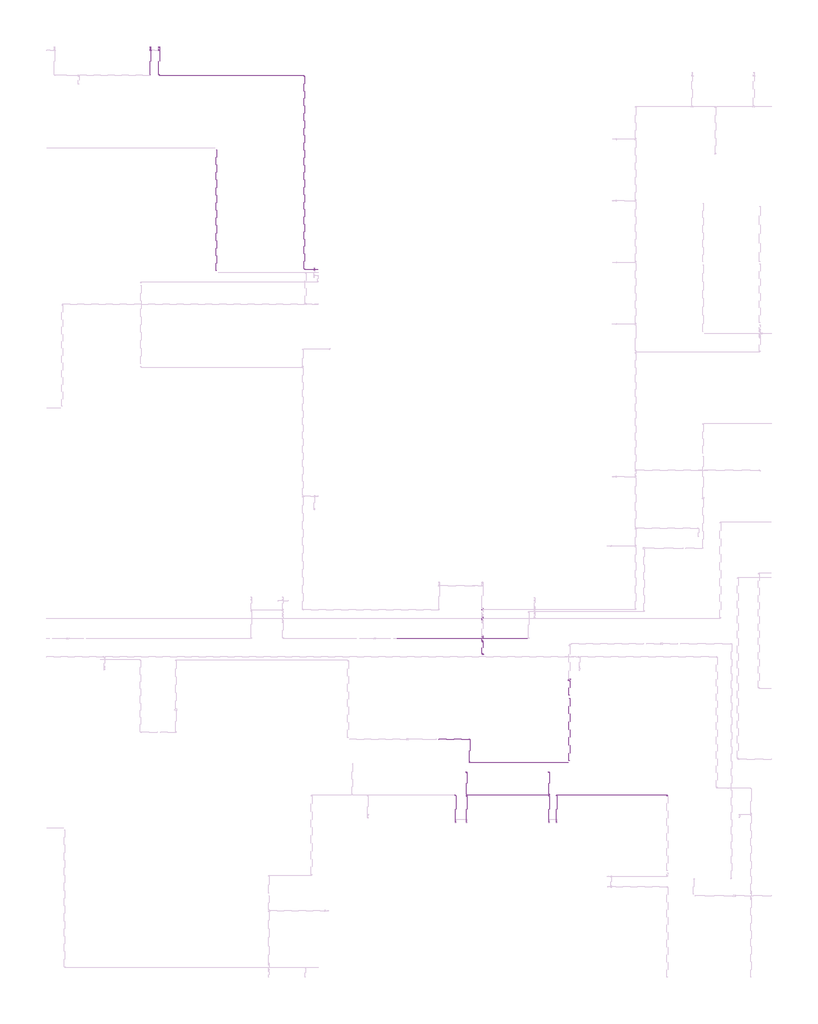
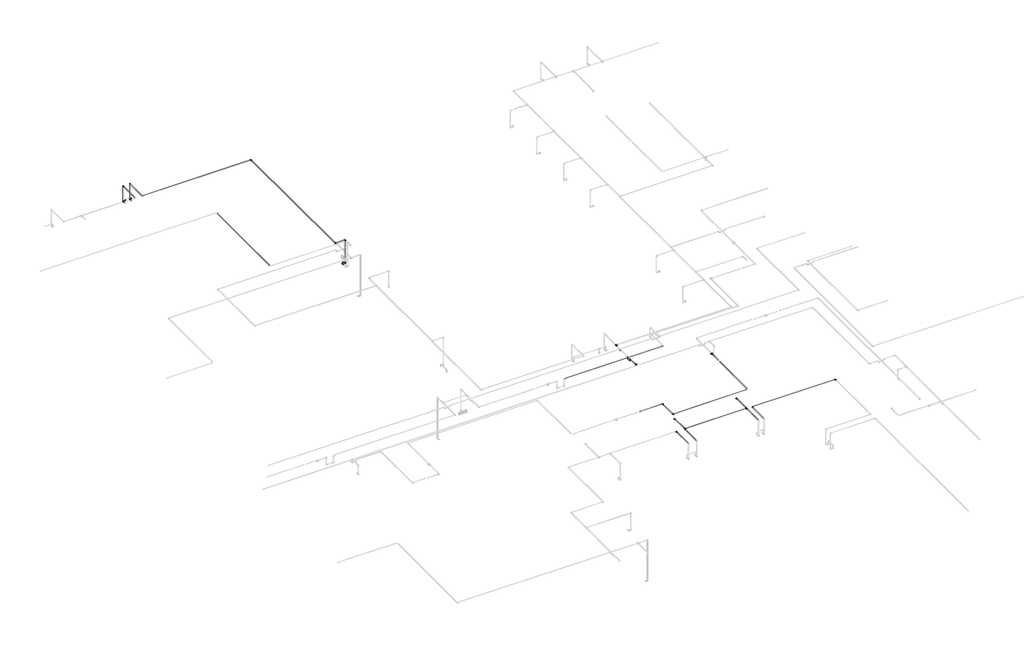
# One storey, part 30 of 40: 37 cable carrier segments, 25 cable carrier fittings, 1 alarm, 1 electric appliance.
"""IFC4 building model written with IfcOpenShell, lengths in millimetres."""

from ifc_helpers import new_model, si_unit, point, frame, frame_2d, origin, place, context, project, spatial, circle_curve, trimmed, segment, composite_curve, outline, extrude, transform, mapped, element, save
from components import alarm_a2247946, cable_carrier_fitting_69f1a801, cable_carrier_fitting_8fd13dfc, electric_appliance_5961a143

model = new_model("IFC4")

# Units and contexts
model_context = context("Model", 3, world=origin())
ifc_project = project(units=[si_unit("LENGTHUNIT", "METRE", prefix="MILLI")], contexts=[model_context])

# Site, building, storey
site = spatial("IfcSite", under=ifc_project)
building = spatial("IfcBuilding", under=site)
storey = spatial("IfcBuildingStorey", under=building, Name="1 этаж", Elevation=0.0)

# Alarm
placement = place(None, origin())
alarm_shape = alarm_a2247946(model_context)
element("IfcAlarm", 1, ObjectType="RBZ_ИзоляторШлейфа_Рубеж_ИЗ-1_прот.R3(плоскость) : ИЗ-1 прот.R3", at=placement, inside=storey, context=model_context, shape_type="MappedRepresentation", body=[
    mapped(alarm_shape, transform((3758.6759895, 3899.6370105, 3200.7186865), x_axis=(1.0, 0.0, 0.0), y_axis=(0.0, 1.0, 0.0), z_axis=(0.0, 0.0, 1.0))),
])

# Cable carrier fittings
cable_carrier_fitting_shape = cable_carrier_fitting_69f1a801(model_context)
element("IfcCableCarrierFitting", 2, ObjectType="ADSK_Поворот_Минимальный размер : Неспецифицируемый", at=placement, inside=storey, context=model_context, shape_type="MappedRepresentation", body=[
    mapped(cable_carrier_fitting_shape, transform((813.1759979, 1457.3920653, 3189.9686909), x_axis=(0.0, -0.9999999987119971, -5.075436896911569e-05), y_axis=(0.9999999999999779, 1.0689508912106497e-11, -2.1061258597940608e-07), z_axis=(2.106125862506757e-07, -5.075436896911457e-05, 0.9999999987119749))),
])
element("IfcCableCarrierFitting", 3, ObjectType="ADSK_Поворот_Минимальный размер : Неспецифицируемый", at=placement, inside=storey, context=model_context, shape_type="MappedRepresentation", body=[
    mapped(cable_carrier_fitting_shape, transform((813.1759979, 2144.6370072, 3190.0035716), x_axis=(0.0, 0.9999999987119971, 5.0754368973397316e-05), y_axis=(-0.9999999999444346, 5.350460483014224e-10, -1.0541871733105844e-05), z_axis=(-1.0541871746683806e-05, -5.075436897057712e-05, 0.9999999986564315))),
])
element("IfcCableCarrierFitting", 4, ObjectType="ADSK_Поворот_Минимальный размер : Неспецифицируемый", at=placement, inside=storey, context=model_context, shape_type="MappedRepresentation", body=[
    mapped(cable_carrier_fitting_shape, transform((-8362.3240021, 22488.6370105, 2650.0), x_axis=(0.0, 0.0, 1.0), y_axis=(-1.0, 0.0, 0.0), z_axis=(0.0, -1.0, 0.0))),
])
element("IfcCableCarrierFitting", 5, ObjectType="ADSK_Поворот_Минимальный размер : Неспецифицируемый", at=placement, inside=storey, context=model_context, shape_type="MappedRepresentation", body=[
    mapped(cable_carrier_fitting_shape, transform((-8622.3240021, 22488.6370105, 2650.0), x_axis=(0.0, 0.0, 1.0), y_axis=(1.0, 0.0, 0.0), z_axis=(0.0, 1.0, 0.0))),
])
element("IfcCableCarrierFitting", 6, ObjectType="ADSK_Поворот_Минимальный размер : Неспецифицируемый", at=placement, inside=storey, context=model_context, shape_type="MappedRepresentation", body=[
    mapped(cable_carrier_fitting_shape, transform((-8622.3240021, 22588.8368161, 2535.0911237), x_axis=(0.0, 1.0, 0.0), y_axis=(0.0, 0.0, 1.0), z_axis=(1.0, 0.0, 0.0))),
])
element("IfcCableCarrierFitting", 7, ObjectType="ADSK_Поворот_Минимальный размер : Неспецифицируемый", at=placement, inside=storey, context=model_context, shape_type="MappedRepresentation", body=[
    mapped(cable_carrier_fitting_shape, transform((-8622.3240021, 22588.8368161, 3187.0), x_axis=(0.0, 0.0, 1.0), y_axis=(0.0, -1.0, 0.0), z_axis=(1.0, 0.0, 0.0))),
])
element("IfcCableCarrierFitting", 8, ObjectType="ADSK_Поворот_Минимальный размер : Неспецифицируемый", at=placement, inside=storey, context=model_context, shape_type="MappedRepresentation", body=[
    mapped(cable_carrier_fitting_shape, transform((-8362.3240021, 22588.8368161, 2535.0527319), x_axis=(0.0, 1.0, 0.0), y_axis=(0.0, 0.0, 1.0), z_axis=(1.0, 0.0, 0.0))),
])
element("IfcCableCarrierFitting", 9, ObjectType="ADSK_Поворот_Минимальный размер : Неспецифицируемый", at=placement, inside=storey, context=model_context, shape_type="MappedRepresentation", body=[
    mapped(cable_carrier_fitting_shape, transform((-8362.3240021, 22588.8368161, 3187.0), x_axis=(0.0, 0.0, 1.0), y_axis=(0.0, -1.0, 0.0), z_axis=(1.0, 0.0, 0.0))),
])
element("IfcCableCarrierFitting", 10, ObjectType="ADSK_Поворот_Минимальный размер : Неспецифицируемый", at=placement, inside=storey, context=model_context, shape_type="MappedRepresentation", body=[
    mapped(cable_carrier_fitting_shape, transform((-3675.1241965, 16019.6370105, 2212.0911237), x_axis=(1.0, 0.0, 0.0), y_axis=(0.0, 0.0, 1.0), z_axis=(0.0, -1.0, 0.0))),
])
element("IfcCableCarrierFitting", 11, ObjectType="ADSK_Поворот_Минимальный размер : Неспецифицируемый", at=placement, inside=storey, context=model_context, shape_type="MappedRepresentation", body=[
    mapped(cable_carrier_fitting_shape, transform((-3675.1241965, 16019.6370105, 3187.0), x_axis=(0.0, 0.0, 1.0), y_axis=(-1.0, 0.0, 0.0), z_axis=(0.0, -1.0, 0.0))),
])
element("IfcCableCarrierFitting", 12, ObjectType="ADSK_Поворот_Минимальный размер : Неспецифицируемый", at=placement, inside=storey, context=model_context, shape_type="MappedRepresentation", body=[
    mapped(cable_carrier_fitting_shape, transform((-4075.1241965, 16019.6370105, 3187.0), x_axis=(0.0, -1.0, 0.0), y_axis=(1.0, 0.0, 0.0), z_axis=(0.0, 0.0, 1.0))),
])
element("IfcCableCarrierFitting", 13, ObjectType="ADSK_Поворот_Минимальный размер : Неспецифицируемый", at=placement, inside=storey, context=model_context, shape_type="MappedRepresentation", body=[
    mapped(cable_carrier_fitting_shape, transform((-4075.1241965, 21741.6370105, 3187.0), x_axis=(0.0, 1.0, 0.0), y_axis=(-1.0, 0.0, 0.0), z_axis=(0.0, 0.0, 1.0))),
])
element("IfcCableCarrierFitting", 14, ObjectType="ADSK_Поворот_Минимальный размер : Неспецифицируемый", at=placement, inside=storey, context=model_context, shape_type="MappedRepresentation", body=[
    mapped(cable_carrier_fitting_shape, transform((1187.6759979, 5198.8368161, 3120.0), x_axis=(0.0, 0.0, -1.0), y_axis=(0.0, -1.0, 0.0), z_axis=(-1.0, 0.0, 0.0))),
])
element("IfcCableCarrierFitting", 15, ObjectType="ADSK_Поворот_Минимальный размер : Неспецифицируемый", at=placement, inside=storey, context=model_context, shape_type="MappedRepresentation", body=[
    mapped(cable_carrier_fitting_shape, transform((1187.6759979, 5038.8368161, 3120.0), x_axis=(0.0, -1.0, 0.0), y_axis=(0.0, 0.0, 1.0), z_axis=(-1.0, 0.0, 0.0))),
])
element("IfcCableCarrierFitting", 16, ObjectType="ADSK_Поворот_Минимальный размер : Неспецифицируемый", at=placement, inside=storey, context=model_context, shape_type="MappedRepresentation", body=[
    mapped(cable_carrier_fitting_shape, transform((1187.6759979, 4644.6370105, 3187.0), x_axis=(0.0, -1.0, 0.0), y_axis=(1.0, 0.0, 0.0), z_axis=(0.0, 0.0, 1.0))),
])
element("IfcCableCarrierFitting", 17, ObjectType="ADSK_Поворот_Минимальный размер : Неспецифицируемый", at=placement, inside=storey, context=model_context, shape_type="MappedRepresentation", body=[
    mapped(cable_carrier_fitting_shape, transform((1187.6759979, 5038.8368161, 3187.0), x_axis=(0.0, 0.0, 1.0), y_axis=(0.0, -1.0, 0.0), z_axis=(1.0, 0.0, 0.0))),
])
element("IfcCableCarrierFitting", 18, ObjectType="ADSK_Поворот_Минимальный размер : Неспецифицируемый", at=placement, inside=storey, context=model_context, shape_type="MappedRepresentation", body=[
    mapped(cable_carrier_fitting_shape, transform((3377.6759979, 494.6370105, 3177.0), x_axis=(-1.0, 0.0, 0.0), y_axis=(0.0, -1.0, 0.0), z_axis=(0.0, 0.0, 1.0))),
])
element("IfcCableCarrierFitting", 19, ObjectType="ADSK_Поворот_Минимальный размер : Неспецифицируемый", at=placement, inside=storey, context=model_context, shape_type="MappedRepresentation", body=[
    mapped(cable_carrier_fitting_shape, transform((3157.6759979, 1179.6370105, 3197.0), x_axis=(0.0, 1.0, 0.0), y_axis=(-1.0, 0.0, 0.0), z_axis=(0.0, 0.0, 1.0))),
])
element("IfcCableCarrierFitting", 20, ObjectType="ADSK_Поворот_Минимальный размер : Неспецифицируемый", at=placement, inside=storey, context=model_context, shape_type="MappedRepresentation", body=[
    mapped(cable_carrier_fitting_shape, transform((722.6759979, 1179.6370105, 3197.0), x_axis=(0.0, 1.0, 0.0), y_axis=(-1.0, 0.0, 0.0), z_axis=(0.0, 0.0, 1.0))),
])
element("IfcCableCarrierFitting", 21, ObjectType="ADSK_Поворот_Минимальный размер : Неспецифицируемый", at=placement, inside=storey, context=model_context, shape_type="MappedRepresentation", body=[
    mapped(cable_carrier_fitting_shape, transform((402.6759979, 494.6370105, 3187.0), x_axis=(0.0, 1.0, 0.0), y_axis=(-1.0, 0.0, 0.0), z_axis=(0.0, 0.0, 1.0))),
])
element("IfcCableCarrierFitting", 22, ObjectType="ADSK_Поворот_Минимальный размер : Неспецифицируемый", at=placement, inside=storey, context=model_context, shape_type="MappedRepresentation", body=[
    mapped(cable_carrier_fitting_shape, transform((6652.6759979, 494.6370105, 3177.0), x_axis=(0.0, 1.0, 0.0), y_axis=(-1.0, 0.0, 0.0), z_axis=(0.0, 0.0, 1.0))),
])
element("IfcCableCarrierFitting", 23, ObjectType="ADSK_Поворот_Минимальный размер : Неспецифицируемый", at=placement, inside=storey, context=model_context, shape_type="MappedRepresentation", body=[
    mapped(cable_carrier_fitting_shape, transform((-3775.3240021, 16019.6370105, 2300.0), x_axis=(0.0, 0.0, 1.0), y_axis=(0.0, -1.0, 0.0), z_axis=(1.0, 0.0, 0.0))),
])
cable_carrier_fitting_2_shape = cable_carrier_fitting_8fd13dfc(model_context)
element("IfcCableCarrierFitting", 24, ObjectType="ADSK_Тройник : ПВХ", at=placement, inside=storey, context=model_context, shape_type="MappedRepresentation", body=[
    mapped(cable_carrier_fitting_2_shape, transform((1187.6759979, 5976.4696908, 3187.0), x_axis=(0.0, 1.0, 0.0), y_axis=(-1.0, 0.0, 0.0), z_axis=(0.0, 0.0, 1.0))),
])
element("IfcCableCarrierFitting", 25, ObjectType="ADSK_Тройник : ПВХ", at=placement, inside=storey, context=model_context, shape_type="MappedRepresentation", body=[
    mapped(cable_carrier_fitting_2_shape, transform((722.6759979, 494.6370105, 3197.0), x_axis=(0.0, 1.0, 0.0), y_axis=(-1.0, 0.0, 0.0), z_axis=(0.0, 0.0, 1.0))),
])
element("IfcCableCarrierFitting", 26, ObjectType="ADSK_Тройник : ПВХ", at=placement, inside=storey, context=model_context, shape_type="MappedRepresentation", body=[
    mapped(cable_carrier_fitting_2_shape, transform((3157.6759979, 494.6370105, 3197.0), x_axis=(0.0, -1.0, 0.0), y_axis=(1.0, 0.0, 0.0), z_axis=(0.0, 0.0, 1.0))),
])

# Cable carrier segments
element("IfcCableCarrierSegment", 27, ObjectType="Гофрированная труба", at=placement, inside=storey, context=model_context, shape_type="SweptSolid", body=[
    extrude(outline(composite_curve([segment(trimmed(circle_curve(frame_2d((3189.2125212, -6672.3240021)), 10.0), [point((3189.2125212, -6682.3240021))], [point((3179.2125212, -6672.3240021))], False, "CARTESIAN"), True, "CONTINUOUS"), segment(trimmed(circle_curve(frame_2d((3189.2125212, -6672.3240021)), 10.0), [point((3179.2125212, -6672.3240021))], [point((3189.2125212, -6662.3240021))], False, "CARTESIAN"), True, "CONTINUOUS"), segment(trimmed(circle_curve(frame_2d((3189.2125212, -6672.3240021)), 10.0), [point((3189.2125212, -6662.3240021))], [point((3199.2125212, -6672.3240021))], False, "CARTESIAN"), True, "CONTINUOUS"), segment(trimmed(circle_curve(frame_2d((3189.2125212, -6672.3240021)), 10.0), [point((3199.2125212, -6672.3240021))], [point((3189.2125212, -6682.3240021))], False, "CARTESIAN"), True, "CONTINUOUS")], self_intersect=False)), frame((0.0, 15973.6370105, 0.0), z_axis=(0.0, 1.0, 0.0), x_axis=(0.0, 0.0, 1.0)), (0.0, 0.0, 1.0), 3579.4999994),
])
element("IfcCableCarrierSegment", 28, ObjectType="Гофрированная труба", at=placement, inside=storey, context=model_context, shape_type="SweptSolid", body=[
    extrude(outline(composite_curve([segment(trimmed(circle_curve(frame_2d((1457.3920653, 3189.9686865)), 10.0), [point((1467.3920653, 3189.969194))], [point((1457.3925729, 3179.9686865))], False, "CARTESIAN"), True, "CONTINUOUS"), segment(trimmed(circle_curve(frame_2d((1457.3920653, 3189.9686865)), 10.0), [point((1457.3925729, 3179.9686865))], [point((1447.3920654, 3189.9681789))], False, "CARTESIAN"), True, "CONTINUOUS"), segment(trimmed(circle_curve(frame_2d((1457.3920653, 3189.9686865)), 10.0), [point((1447.3920654, 3189.9681789))], [point((1457.3915578, 3199.9686864))], False, "CARTESIAN"), True, "CONTINUOUS"), segment(trimmed(circle_curve(frame_2d((1457.3920653, 3189.9686865)), 10.0), [point((1457.3915578, 3199.9686864))], [point((1467.3920653, 3189.969194))], False, "CARTESIAN"), True, "CONTINUOUS")], self_intersect=False)), frame((834.1759979, 0.0, 0.0), z_axis=(1.0, 0.0, 0.0), x_axis=(0.0, 1.0, 0.0)), (0.0, 0.0, 1.0), 2877.9999916),
])
element("IfcCableCarrierSegment", 29, ObjectType="Гофрированная труба", at=placement, inside=storey, context=model_context, shape_type="SweptSolid", body=[
    extrude(outline(composite_curve([segment(trimmed(circle_curve(frame_2d((3189.9686865, 3758.6759895)), 10.0), [point((3189.9686865, 3748.6759895))], [point((3179.9686865, 3758.6759895))], False, "CARTESIAN"), True, "CONTINUOUS"), segment(trimmed(circle_curve(frame_2d((3189.9686865, 3758.6759895)), 10.0), [point((3179.9686865, 3758.6759895))], [point((3189.9686865, 3768.6759895))], False, "CARTESIAN"), True, "CONTINUOUS"), segment(trimmed(circle_curve(frame_2d((3189.9686865, 3758.6759895)), 10.0), [point((3189.9686865, 3768.6759895))], [point((3199.9686865, 3758.6759895))], False, "CARTESIAN"), True, "CONTINUOUS"), segment(trimmed(circle_curve(frame_2d((3189.9686865, 3758.6759895)), 10.0), [point((3199.9686865, 3758.6759895))], [point((3189.9686865, 3748.6759895))], False, "CARTESIAN"), True, "CONTINUOUS")], self_intersect=False)), frame((0.0, 1503.8920653, 0.0), z_axis=(0.0, 1.0, 0.0), x_axis=(0.0, 0.0, 1.0)), (0.0, 0.0, 1.0), 1849.5895385),
])
element("IfcCableCarrierSegment", 30, ObjectType="Гофрированная труба", at=placement, inside=storey, context=model_context, shape_type="SweptSolid", body=[
    extrude(outline(composite_curve([segment(trimmed(circle_curve(frame_2d((2144.6370072, 3190.0033502)), 10.0), [point((2154.6370072, 3190.0038577))], [point((2144.6375148, 3180.0033502))], False, "CARTESIAN"), True, "CONTINUOUS"), segment(trimmed(circle_curve(frame_2d((2144.6370072, 3190.0033502)), 10.0), [point((2144.6375148, 3180.0033502))], [point((2134.6370073, 3190.0028426))], False, "CARTESIAN"), True, "CONTINUOUS"), segment(trimmed(circle_curve(frame_2d((2144.6370072, 3190.0033502)), 10.0), [point((2134.6370073, 3190.0028426))], [point((2144.6364997, 3200.0033502))], False, "CARTESIAN"), True, "CONTINUOUS"), segment(trimmed(circle_curve(frame_2d((2144.6370072, 3190.0033502)), 10.0), [point((2144.6364997, 3200.0033502))], [point((2154.6370072, 3190.0038577))], False, "CARTESIAN"), True, "CONTINUOUS")], self_intersect=False)), frame((-88.3240021, 0.0, 0.0), z_axis=(1.0, 0.0, 0.0), x_axis=(0.0, 1.0, 0.0)), (0.0, 0.0, 1.0), 880.5),
])
element("IfcCableCarrierSegment", 31, ObjectType="Гофрированная труба", at=placement, inside=storey, context=model_context, shape_type="SweptSolid", body=[
    extrude(outline(composite_curve([segment(trimmed(circle_curve(frame_2d((0.0, 10.0)), 10.0), [point((0.0, 20.0))], [point((10.0, 10.0))], False, "CARTESIAN"), True, "CONTINUOUS"), segment(trimmed(circle_curve(frame_2d((0.0, 10.0)), 10.0), [point((10.0, 10.0))], [point((0.0, 0.0))], False, "CARTESIAN"), True, "CONTINUOUS"), segment(trimmed(circle_curve(frame_2d((0.0, 10.0)), 10.0), [point((0.0, 0.0))], [point((-10.0, 10.0))], False, "CARTESIAN"), True, "CONTINUOUS"), segment(trimmed(circle_curve(frame_2d((0.0, 10.0)), 10.0), [point((-10.0, 10.0))], [point((0.0, 20.0))], False, "CARTESIAN"), True, "CONTINUOUS")], self_intersect=False)), frame((803.1759979, 1478.3920653, 3189.9697567), z_axis=(0.0, 0.9999999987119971, 5.0754368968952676e-05), x_axis=(0.0, -5.0754368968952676e-05, 0.9999999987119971)), (0.0, 0.0, 1.0), 645.2449428),
])
element("IfcCableCarrierSegment", 32, ObjectType="Гофрированная труба", at=placement, inside=storey, context=model_context, shape_type="SweptSolid", body=[
    extrude(outline(composite_curve([segment(trimmed(circle_curve(frame_2d((5122.1370105, 3189.2903068)), 10.0), [point((5112.1370105, 3189.2903068))], [point((5122.1370105, 3199.2903068))], False, "CARTESIAN"), True, "CONTINUOUS"), segment(trimmed(circle_curve(frame_2d((5122.1370105, 3189.2903068)), 10.0), [point((5122.1370105, 3199.2903068))], [point((5132.1370105, 3189.2903068))], False, "CARTESIAN"), True, "CONTINUOUS"), segment(trimmed(circle_curve(frame_2d((5122.1370105, 3189.2903068)), 10.0), [point((5132.1370105, 3189.2903068))], [point((5122.1370105, 3179.2903068))], False, "CARTESIAN"), True, "CONTINUOUS"), segment(trimmed(circle_curve(frame_2d((5122.1370105, 3189.2903068)), 10.0), [point((5122.1370105, 3179.2903068))], [point((5112.1370105, 3189.2903068))], False, "CARTESIAN"), True, "CONTINUOUS")], self_intersect=False)), frame((-1327.6241965, 0.0, 0.0), z_axis=(1.0, 0.0, 0.0), x_axis=(0.0, 1.0, 0.0)), (0.0, 0.0, 1.0), 3860.8001944),
])
element("IfcCableCarrierSegment", 33, ObjectType="Гофрированная труба", at=placement, inside=storey, context=model_context, shape_type="SweptSolid", body=[
    extrude(outline(composite_curve([segment(trimmed(circle_curve(frame_2d((3189.9686865, 3758.6759895)), 10.0), [point((3189.9686865, 3768.6759895))], [point((3199.9686865, 3758.6759895))], False, "CARTESIAN"), True, "CONTINUOUS"), segment(trimmed(circle_curve(frame_2d((3189.9686865, 3758.6759895)), 10.0), [point((3199.9686865, 3758.6759895))], [point((3189.9686865, 3748.6759895))], False, "CARTESIAN"), True, "CONTINUOUS"), segment(trimmed(circle_curve(frame_2d((3189.9686865, 3758.6759895)), 10.0), [point((3189.9686865, 3748.6759895))], [point((3179.9686865, 3758.6759895))], False, "CARTESIAN"), True, "CONTINUOUS"), segment(trimmed(circle_curve(frame_2d((3189.9686865, 3758.6759895)), 10.0), [point((3179.9686865, 3758.6759895))], [point((3189.9686865, 3768.6759895))], False, "CARTESIAN"), True, "CONTINUOUS")], self_intersect=False)), frame((0.0, 3446.4816039, 0.0), z_axis=(0.0, 1.0, 0.0), x_axis=(0.0, 0.0, 1.0)), (0.0, 0.0, 1.0), 427.1554067),
])
element("IfcCableCarrierSegment", 34, ObjectType="Гофрированная труба", at=placement, inside=storey, context=model_context, shape_type="SweptSolid", body=[
    extrude(outline(composite_curve([segment(trimmed(circle_curve(frame_2d((-8622.3240021, 22488.6370105)), 10.0), [point((-8632.3240021, 22488.6370105))], [point((-8622.3240021, 22498.6370105))], False, "CARTESIAN"), True, "CONTINUOUS"), segment(trimmed(circle_curve(frame_2d((-8622.3240021, 22488.6370105)), 10.0), [point((-8622.3240021, 22498.6370105))], [point((-8612.3240021, 22488.6370105))], False, "CARTESIAN"), True, "CONTINUOUS"), segment(trimmed(circle_curve(frame_2d((-8622.3240021, 22488.6370105)), 10.0), [point((-8612.3240021, 22488.6370105))], [point((-8622.3240021, 22478.6370105))], False, "CARTESIAN"), True, "CONTINUOUS"), segment(trimmed(circle_curve(frame_2d((-8622.3240021, 22488.6370105)), 10.0), [point((-8622.3240021, 22478.6370105))], [point((-8632.3240021, 22488.6370105))], False, "CARTESIAN"), True, "CONTINUOUS")], self_intersect=False)), frame((0.0, 0.0, 2564.1207114), z_axis=(0.0, 0.0, 1.0), x_axis=(1.0, 0.0, 0.0)), (0.0, 0.0, 1.0), 64.8792886),
])
element("IfcCableCarrierSegment", 35, ObjectType="Гофрированная труба", at=placement, inside=storey, context=model_context, shape_type="SweptSolid", body=[
    extrude(outline(composite_curve([segment(trimmed(circle_curve(frame_2d((-8362.3240021, 22488.6370105)), 10.0), [point((-8372.3240021, 22488.6370105))], [point((-8362.3240021, 22498.6370105))], False, "CARTESIAN"), True, "CONTINUOUS"), segment(trimmed(circle_curve(frame_2d((-8362.3240021, 22488.6370105)), 10.0), [point((-8362.3240021, 22498.6370105))], [point((-8352.3240021, 22488.6370105))], False, "CARTESIAN"), True, "CONTINUOUS"), segment(trimmed(circle_curve(frame_2d((-8362.3240021, 22488.6370105)), 10.0), [point((-8352.3240021, 22488.6370105))], [point((-8362.3240021, 22478.6370105))], False, "CARTESIAN"), True, "CONTINUOUS"), segment(trimmed(circle_curve(frame_2d((-8362.3240021, 22488.6370105)), 10.0), [point((-8362.3240021, 22478.6370105))], [point((-8372.3240021, 22488.6370105))], False, "CARTESIAN"), True, "CONTINUOUS")], self_intersect=False)), frame((0.0, 0.0, 2564.0823197), z_axis=(0.0, 0.0, 1.0), x_axis=(1.0, 0.0, 0.0)), (0.0, 0.0, 1.0), 64.9176803),
])
element("IfcCableCarrierSegment", 36, ObjectType="Гофрированная труба", at=placement, inside=storey, context=model_context, shape_type="SweptSolid", body=[
    extrude(outline(composite_curve([segment(trimmed(circle_curve(frame_2d((3187.0, -8622.3240021)), 10.0), [point((3187.0, -8632.3240021))], [point((3177.0, -8622.3240021))], False, "CARTESIAN"), True, "CONTINUOUS"), segment(trimmed(circle_curve(frame_2d((3187.0, -8622.3240021)), 10.0), [point((3177.0, -8622.3240021))], [point((3187.0, -8612.3240021))], False, "CARTESIAN"), True, "CONTINUOUS"), segment(trimmed(circle_curve(frame_2d((3187.0, -8622.3240021)), 10.0), [point((3187.0, -8612.3240021))], [point((3197.0, -8622.3240021))], False, "CARTESIAN"), True, "CONTINUOUS"), segment(trimmed(circle_curve(frame_2d((3187.0, -8622.3240021)), 10.0), [point((3197.0, -8622.3240021))], [point((3187.0, -8632.3240021))], False, "CARTESIAN"), True, "CONTINUOUS")], self_intersect=False)), frame((0.0, 21772.6370105, 0.0), z_axis=(0.0, 1.0, 0.0), x_axis=(0.0, 0.0, 1.0)), (0.0, 0.0, 1.0), 795.1998056),
])
element("IfcCableCarrierSegment", 37, ObjectType="Гофрированная труба", at=placement, inside=storey, context=model_context, shape_type="SweptSolid", body=[
    extrude(outline(composite_curve([segment(trimmed(circle_curve(frame_2d((2535.0911237, -8622.3240021)), 10.0), [point((2535.0911237, -8612.3240021))], [point((2545.0911237, -8622.3240021))], False, "CARTESIAN"), True, "CONTINUOUS"), segment(trimmed(circle_curve(frame_2d((2535.0911237, -8622.3240021)), 10.0), [point((2545.0911237, -8622.3240021))], [point((2535.0911237, -8632.3240021))], False, "CARTESIAN"), True, "CONTINUOUS"), segment(trimmed(circle_curve(frame_2d((2535.0911237, -8622.3240021)), 10.0), [point((2535.0911237, -8632.3240021))], [point((2525.0911237, -8622.3240021))], False, "CARTESIAN"), True, "CONTINUOUS"), segment(trimmed(circle_curve(frame_2d((2535.0911237, -8622.3240021)), 10.0), [point((2525.0911237, -8622.3240021))], [point((2535.0911237, -8612.3240021))], False, "CARTESIAN"), True, "CONTINUOUS")], self_intersect=False)), frame((0.0, 22491.6370105, 0.0), z_axis=(0.0, 1.0, 0.0), x_axis=(0.0, 0.0, 1.0)), (0.0, 0.0, 1.0), 76.1998056),
])
element("IfcCableCarrierSegment", 38, ObjectType="Гофрированная труба", at=placement, inside=storey, context=model_context, shape_type="SweptSolid", body=[
    extrude(outline(composite_curve([segment(trimmed(circle_curve(frame_2d((-8622.3240021, 22588.8368161)), 10.0), [point((-8632.3240021, 22588.8368161))], [point((-8622.3240021, 22598.8368161))], False, "CARTESIAN"), True, "CONTINUOUS"), segment(trimmed(circle_curve(frame_2d((-8622.3240021, 22588.8368161)), 10.0), [point((-8622.3240021, 22598.8368161))], [point((-8612.3240021, 22588.8368161))], False, "CARTESIAN"), True, "CONTINUOUS"), segment(trimmed(circle_curve(frame_2d((-8622.3240021, 22588.8368161)), 10.0), [point((-8612.3240021, 22588.8368161))], [point((-8622.3240021, 22578.8368161))], False, "CARTESIAN"), True, "CONTINUOUS"), segment(trimmed(circle_curve(frame_2d((-8622.3240021, 22588.8368161)), 10.0), [point((-8622.3240021, 22578.8368161))], [point((-8632.3240021, 22588.8368161))], False, "CARTESIAN"), True, "CONTINUOUS")], self_intersect=False)), frame((0.0, 0.0, 2556.0911237), z_axis=(0.0, 0.0, 1.0), x_axis=(1.0, 0.0, 0.0)), (0.0, 0.0, 1.0), 609.9088763),
])
element("IfcCableCarrierSegment", 39, ObjectType="Гофрированная труба", at=placement, inside=storey, context=model_context, shape_type="SweptSolid", body=[
    extrude(outline(composite_curve([segment(trimmed(circle_curve(frame_2d((3187.0, -8362.3240021)), 10.0), [point((3187.0, -8372.3240021))], [point((3177.0, -8362.3240021))], False, "CARTESIAN"), True, "CONTINUOUS"), segment(trimmed(circle_curve(frame_2d((3187.0, -8362.3240021)), 10.0), [point((3177.0, -8362.3240021))], [point((3187.0, -8352.3240021))], False, "CARTESIAN"), True, "CONTINUOUS"), segment(trimmed(circle_curve(frame_2d((3187.0, -8362.3240021)), 10.0), [point((3187.0, -8352.3240021))], [point((3197.0, -8362.3240021))], False, "CARTESIAN"), True, "CONTINUOUS"), segment(trimmed(circle_curve(frame_2d((3187.0, -8362.3240021)), 10.0), [point((3197.0, -8362.3240021))], [point((3187.0, -8372.3240021))], False, "CARTESIAN"), True, "CONTINUOUS")], self_intersect=False)), frame((0.0, 21762.6370105, 0.0), z_axis=(0.0, 1.0, 0.0), x_axis=(0.0, 0.0, 1.0)), (0.0, 0.0, 1.0), 805.1998056),
])
element("IfcCableCarrierSegment", 40, ObjectType="Гофрированная труба", at=placement, inside=storey, context=model_context, shape_type="SweptSolid", body=[
    extrude(outline(composite_curve([segment(trimmed(circle_curve(frame_2d((2535.0527319, -8362.3240021)), 10.0), [point((2535.0527319, -8352.3240021))], [point((2545.0527319, -8362.3240021))], False, "CARTESIAN"), True, "CONTINUOUS"), segment(trimmed(circle_curve(frame_2d((2535.0527319, -8362.3240021)), 10.0), [point((2545.0527319, -8362.3240021))], [point((2535.0527319, -8372.3240021))], False, "CARTESIAN"), True, "CONTINUOUS"), segment(trimmed(circle_curve(frame_2d((2535.0527319, -8362.3240021)), 10.0), [point((2535.0527319, -8372.3240021))], [point((2525.0527319, -8362.3240021))], False, "CARTESIAN"), True, "CONTINUOUS"), segment(trimmed(circle_curve(frame_2d((2535.0527319, -8362.3240021)), 10.0), [point((2525.0527319, -8362.3240021))], [point((2535.0527319, -8352.3240021))], False, "CARTESIAN"), True, "CONTINUOUS")], self_intersect=False)), frame((0.0, 22491.6370105, 0.0), z_axis=(0.0, 1.0, 0.0), x_axis=(0.0, 0.0, 1.0)), (0.0, 0.0, 1.0), 76.1998056),
])
element("IfcCableCarrierSegment", 41, ObjectType="Гофрированная труба", at=placement, inside=storey, context=model_context, shape_type="SweptSolid", body=[
    extrude(outline(composite_curve([segment(trimmed(circle_curve(frame_2d((-8362.3240021, 22588.8368161)), 10.0), [point((-8372.3240021, 22588.8368161))], [point((-8362.3240021, 22598.8368161))], False, "CARTESIAN"), True, "CONTINUOUS"), segment(trimmed(circle_curve(frame_2d((-8362.3240021, 22588.8368161)), 10.0), [point((-8362.3240021, 22598.8368161))], [point((-8352.3240021, 22588.8368161))], False, "CARTESIAN"), True, "CONTINUOUS"), segment(trimmed(circle_curve(frame_2d((-8362.3240021, 22588.8368161)), 10.0), [point((-8352.3240021, 22588.8368161))], [point((-8362.3240021, 22578.8368161))], False, "CARTESIAN"), True, "CONTINUOUS"), segment(trimmed(circle_curve(frame_2d((-8362.3240021, 22588.8368161)), 10.0), [point((-8362.3240021, 22578.8368161))], [point((-8372.3240021, 22588.8368161))], False, "CARTESIAN"), True, "CONTINUOUS")], self_intersect=False)), frame((0.0, 0.0, 2556.0527319), z_axis=(0.0, 0.0, 1.0), x_axis=(1.0, 0.0, 0.0)), (0.0, 0.0, 1.0), 609.9472681),
])
element("IfcCableCarrierSegment", 42, ObjectType="Гофрированная труба", at=placement, inside=storey, context=model_context, shape_type="SweptSolid", body=[
    extrude(outline(composite_curve([segment(trimmed(circle_curve(frame_2d((16019.6370105, 3187.0)), 10.0), [point((16029.6370105, 3187.0))], [point((16019.6370105, 3177.0))], False, "CARTESIAN"), True, "CONTINUOUS"), segment(trimmed(circle_curve(frame_2d((16019.6370105, 3187.0)), 10.0), [point((16019.6370105, 3177.0))], [point((16009.6370105, 3187.0))], False, "CARTESIAN"), True, "CONTINUOUS"), segment(trimmed(circle_curve(frame_2d((16019.6370105, 3187.0)), 10.0), [point((16009.6370105, 3187.0))], [point((16019.6370105, 3197.0))], False, "CARTESIAN"), True, "CONTINUOUS"), segment(trimmed(circle_curve(frame_2d((16019.6370105, 3187.0)), 10.0), [point((16019.6370105, 3197.0))], [point((16029.6370105, 3187.0))], False, "CARTESIAN"), True, "CONTINUOUS")], self_intersect=False)), frame((-4054.1241965, 0.0, 0.0), z_axis=(1.0, 0.0, 0.0), x_axis=(0.0, 1.0, 0.0)), (0.0, 0.0, 1.0), 358.0),
])
element("IfcCableCarrierSegment", 43, ObjectType="Гофрированная труба", at=placement, inside=storey, context=model_context, shape_type="SweptSolid", body=[
    extrude(outline(composite_curve([segment(trimmed(circle_curve(frame_2d((16019.6370105, 2212.0911237)), 10.0), [point((16009.6370105, 2212.0911237))], [point((16019.6370105, 2222.0911237))], False, "CARTESIAN"), True, "CONTINUOUS"), segment(trimmed(circle_curve(frame_2d((16019.6370105, 2212.0911237)), 10.0), [point((16019.6370105, 2222.0911237))], [point((16029.6370105, 2212.0911237))], False, "CARTESIAN"), True, "CONTINUOUS"), segment(trimmed(circle_curve(frame_2d((16019.6370105, 2212.0911237)), 10.0), [point((16029.6370105, 2212.0911237))], [point((16019.6370105, 2202.0911237))], False, "CARTESIAN"), True, "CONTINUOUS"), segment(trimmed(circle_curve(frame_2d((16019.6370105, 2212.0911237)), 10.0), [point((16019.6370105, 2202.0911237))], [point((16009.6370105, 2212.0911237))], False, "CARTESIAN"), True, "CONTINUOUS")], self_intersect=False)), frame((-3772.3240021, 0.0, 0.0), z_axis=(1.0, 0.0, 0.0), x_axis=(0.0, 1.0, 0.0)), (0.0, 0.0, 1.0), 76.1998056),
])
element("IfcCableCarrierSegment", 44, ObjectType="Гофрированная труба", at=placement, inside=storey, context=model_context, shape_type="SweptSolid", body=[
    extrude(outline(composite_curve([segment(trimmed(circle_curve(frame_2d((-3675.1241965, 16019.6370105)), 10.0), [point((-3685.1241965, 16019.6370105))], [point((-3675.1241965, 16029.6370105))], False, "CARTESIAN"), True, "CONTINUOUS"), segment(trimmed(circle_curve(frame_2d((-3675.1241965, 16019.6370105)), 10.0), [point((-3675.1241965, 16029.6370105))], [point((-3665.1241965, 16019.6370105))], False, "CARTESIAN"), True, "CONTINUOUS"), segment(trimmed(circle_curve(frame_2d((-3675.1241965, 16019.6370105)), 10.0), [point((-3665.1241965, 16019.6370105))], [point((-3675.1241965, 16009.6370105))], False, "CARTESIAN"), True, "CONTINUOUS"), segment(trimmed(circle_curve(frame_2d((-3675.1241965, 16019.6370105)), 10.0), [point((-3675.1241965, 16009.6370105))], [point((-3685.1241965, 16019.6370105))], False, "CARTESIAN"), True, "CONTINUOUS")], self_intersect=False)), frame((0.0, 0.0, 2233.0911237), z_axis=(0.0, 0.0, 1.0), x_axis=(1.0, 0.0, 0.0)), (0.0, 0.0, 1.0), 932.9088763),
])
element("IfcCableCarrierSegment", 45, ObjectType="Гофрированная труба", at=placement, inside=storey, context=model_context, shape_type="SweptSolid", body=[
    extrude(outline(composite_curve([segment(trimmed(circle_curve(frame_2d((3187.0, -4075.1241965)), 10.0), [point((3187.0, -4065.1241965))], [point((3197.0, -4075.1241965))], False, "CARTESIAN"), True, "CONTINUOUS"), segment(trimmed(circle_curve(frame_2d((3187.0, -4075.1241965)), 10.0), [point((3197.0, -4075.1241965))], [point((3187.0, -4085.1241965))], False, "CARTESIAN"), True, "CONTINUOUS"), segment(trimmed(circle_curve(frame_2d((3187.0, -4075.1241965)), 10.0), [point((3187.0, -4085.1241965))], [point((3177.0, -4075.1241965))], False, "CARTESIAN"), True, "CONTINUOUS"), segment(trimmed(circle_curve(frame_2d((3187.0, -4075.1241965)), 10.0), [point((3177.0, -4075.1241965))], [point((3187.0, -4065.1241965))], False, "CARTESIAN"), True, "CONTINUOUS")], self_intersect=False)), frame((0.0, 16040.6370105, 0.0), z_axis=(0.0, 1.0, 0.0), x_axis=(0.0, 0.0, 1.0)), (0.0, 0.0, 1.0), 5680.0),
])
element("IfcCableCarrierSegment", 46, ObjectType="Гофрированная труба", at=placement, inside=storey, context=model_context, shape_type="SweptSolid", body=[
    extrude(outline(composite_curve([segment(trimmed(circle_curve(frame_2d((21741.6370105, 3187.0)), 10.0), [point((21731.6370105, 3187.0))], [point((21741.6370105, 3197.0))], False, "CARTESIAN"), True, "CONTINUOUS"), segment(trimmed(circle_curve(frame_2d((21741.6370105, 3187.0)), 10.0), [point((21741.6370105, 3197.0))], [point((21751.6370105, 3187.0))], False, "CARTESIAN"), True, "CONTINUOUS"), segment(trimmed(circle_curve(frame_2d((21741.6370105, 3187.0)), 10.0), [point((21751.6370105, 3187.0))], [point((21741.6370105, 3177.0))], False, "CARTESIAN"), True, "CONTINUOUS"), segment(trimmed(circle_curve(frame_2d((21741.6370105, 3187.0)), 10.0), [point((21741.6370105, 3177.0))], [point((21731.6370105, 3187.0))], False, "CARTESIAN"), True, "CONTINUOUS")], self_intersect=False)), frame((-8341.3240021, 0.0, 0.0), z_axis=(1.0, 0.0, 0.0), x_axis=(0.0, 1.0, 0.0)), (0.0, 0.0, 1.0), 4245.1998056),
])
element("IfcCableCarrierSegment", 47, ObjectType="Гофрированная труба", at=placement, inside=storey, context=model_context, shape_type="SweptSolid", body=[
    extrude(outline(composite_curve([segment(trimmed(circle_curve(frame_2d((3137.0, 1187.6759979)), 10.0), [point((3137.0, 1177.6759979))], [point((3127.0, 1187.6759979))], False, "CARTESIAN"), True, "CONTINUOUS"), segment(trimmed(circle_curve(frame_2d((3137.0, 1187.6759979)), 10.0), [point((3127.0, 1187.6759979))], [point((3137.0, 1197.6759979))], False, "CARTESIAN"), True, "CONTINUOUS"), segment(trimmed(circle_curve(frame_2d((3137.0, 1187.6759979)), 10.0), [point((3137.0, 1197.6759979))], [point((3147.0, 1187.6759979))], False, "CARTESIAN"), True, "CONTINUOUS"), segment(trimmed(circle_curve(frame_2d((3137.0, 1187.6759979)), 10.0), [point((3147.0, 1187.6759979))], [point((3137.0, 1177.6759979))], False, "CARTESIAN"), True, "CONTINUOUS")], self_intersect=False)), frame((0.0, 5652.3490105, 0.0), z_axis=(0.0, 1.0, 0.0), x_axis=(0.0, 0.0, 1.0)), (0.0, 0.0, 1.0), 114.576),
])
element("IfcCableCarrierSegment", 48, ObjectType="Гофрированная труба", at=placement, inside=storey, context=model_context, shape_type="SweptSolid", body=[
    extrude(outline(composite_curve([segment(trimmed(circle_curve(frame_2d((3120.0, 1187.6759979)), 10.0), [point((3120.0, 1177.6759979))], [point((3110.0, 1187.6759979))], False, "CARTESIAN"), True, "CONTINUOUS"), segment(trimmed(circle_curve(frame_2d((3120.0, 1187.6759979)), 10.0), [point((3110.0, 1187.6759979))], [point((3120.0, 1197.6759979))], False, "CARTESIAN"), True, "CONTINUOUS"), segment(trimmed(circle_curve(frame_2d((3120.0, 1187.6759979)), 10.0), [point((3120.0, 1197.6759979))], [point((3130.0, 1187.6759979))], False, "CARTESIAN"), True, "CONTINUOUS"), segment(trimmed(circle_curve(frame_2d((3120.0, 1187.6759979)), 10.0), [point((3130.0, 1187.6759979))], [point((3120.0, 1177.6759979))], False, "CARTESIAN"), True, "CONTINUOUS")], self_intersect=False)), frame((0.0, 5059.8368161, 0.0), z_axis=(0.0, 1.0, 0.0), x_axis=(0.0, 0.0, 1.0)), (0.0, 0.0, 1.0), 118.0),
])
element("IfcCableCarrierSegment", 49, ObjectType="Гофрированная труба", at=placement, inside=storey, context=model_context, shape_type="SweptSolid", body=[
    extrude(outline(composite_curve([segment(trimmed(circle_curve(frame_2d((0.0, -10.0)), 10.0), [point((-10.0, -10.0))], [point((0.0, 0.0))], False, "CARTESIAN"), True, "CONTINUOUS"), segment(trimmed(circle_curve(frame_2d((0.0, -10.0)), 10.0), [point((0.0, 0.0))], [point((10.0, -10.0))], False, "CARTESIAN"), True, "CONTINUOUS"), segment(trimmed(circle_curve(frame_2d((0.0, -10.0)), 10.0), [point((10.0, -10.0))], [point((0.0, -20.0))], False, "CARTESIAN"), True, "CONTINUOUS"), segment(trimmed(circle_curve(frame_2d((0.0, -10.0)), 10.0), [point((0.0, -20.0))], [point((-10.0, -10.0))], False, "CARTESIAN"), True, "CONTINUOUS")], self_intersect=False)), frame((1187.6759979, 5188.8368161, 3141.0), z_axis=(0.0, -1.380655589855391e-12, 1.0), x_axis=(-1.0, 0.0, 0.0)), (0.0, 0.0, 1.0), 25.0),
])
element("IfcCableCarrierSegment", 50, ObjectType="Гофрированная труба", at=placement, inside=storey, context=model_context, shape_type="SweptSolid", body=[
    extrude(outline(composite_curve([segment(trimmed(circle_curve(frame_2d((3187.0, 1187.6759979)), 10.0), [point((3187.0, 1197.6759979))], [point((3197.0, 1187.6759979))], False, "CARTESIAN"), True, "CONTINUOUS"), segment(trimmed(circle_curve(frame_2d((3187.0, 1187.6759979)), 10.0), [point((3197.0, 1187.6759979))], [point((3187.0, 1177.6759979))], False, "CARTESIAN"), True, "CONTINUOUS"), segment(trimmed(circle_curve(frame_2d((3187.0, 1187.6759979)), 10.0), [point((3187.0, 1177.6759979))], [point((3177.0, 1187.6759979))], False, "CARTESIAN"), True, "CONTINUOUS"), segment(trimmed(circle_curve(frame_2d((3187.0, 1187.6759979)), 10.0), [point((3177.0, 1187.6759979))], [point((3187.0, 1197.6759979))], False, "CARTESIAN"), True, "CONTINUOUS")], self_intersect=False)), frame((0.0, 4665.6370105, 0.0), z_axis=(0.0, 1.0, 0.0), x_axis=(0.0, 0.0, 1.0)), (0.0, 0.0, 1.0), 352.1998056),
])
element("IfcCableCarrierSegment", 51, ObjectType="Гофрированная труба", at=placement, inside=storey, context=model_context, shape_type="SweptSolid", body=[
    extrude(outline(composite_curve([segment(trimmed(circle_curve(frame_2d((0.0, 10.0)), 10.0), [point((-10.0, 10.0))], [point((0.0, 20.0))], False, "CARTESIAN"), True, "CONTINUOUS"), segment(trimmed(circle_curve(frame_2d((0.0, 10.0)), 10.0), [point((0.0, 20.0))], [point((10.0, 10.0))], False, "CARTESIAN"), True, "CONTINUOUS"), segment(trimmed(circle_curve(frame_2d((0.0, 10.0)), 10.0), [point((10.0, 10.0))], [point((0.0, 0.0))], False, "CARTESIAN"), True, "CONTINUOUS"), segment(trimmed(circle_curve(frame_2d((0.0, 10.0)), 10.0), [point((0.0, 0.0))], [point((-10.0, 10.0))], False, "CARTESIAN"), True, "CONTINUOUS")], self_intersect=False)), frame((1187.6759979, 5028.8368161, 3141.0), z_axis=(0.0, 1.0287237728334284e-12, 1.0), x_axis=(1.0, 0.0, 0.0)), (0.0, 0.0, 1.0), 25.0),
])
element("IfcCableCarrierSegment", 52, ObjectType="Гофрированная труба", at=placement, inside=storey, context=model_context, shape_type="SweptSolid", body=[
    extrude(outline(composite_curve([segment(trimmed(circle_curve(frame_2d((4644.6370105, 3187.0)), 10.0), [point((4654.6370105, 3187.0))], [point((4644.6370105, 3177.0))], False, "CARTESIAN"), True, "CONTINUOUS"), segment(trimmed(circle_curve(frame_2d((4644.6370105, 3187.0)), 10.0), [point((4644.6370105, 3177.0))], [point((4634.6370105, 3187.0))], False, "CARTESIAN"), True, "CONTINUOUS"), segment(trimmed(circle_curve(frame_2d((4644.6370105, 3187.0)), 10.0), [point((4634.6370105, 3187.0))], [point((4644.6370105, 3197.0))], False, "CARTESIAN"), True, "CONTINUOUS"), segment(trimmed(circle_curve(frame_2d((4644.6370105, 3187.0)), 10.0), [point((4644.6370105, 3197.0))], [point((4654.6370105, 3187.0))], False, "CARTESIAN"), True, "CONTINUOUS")], self_intersect=False)), frame((1208.6759979, 0.0, 0.0), z_axis=(1.0, 0.0, 0.0), x_axis=(0.0, 1.0, 0.0)), (0.0, 0.0, 1.0), 29.0),
])
element("IfcCableCarrierSegment", 53, ObjectType="Гофрированная труба", at=placement, inside=storey, context=model_context, shape_type="SweptSolid", body=[
    extrude(outline(composite_curve([segment(trimmed(circle_curve(frame_2d((494.6370105, 3177.0)), 10.0), [point((484.6370105, 3177.0))], [point((494.6370105, 3187.0))], False, "CARTESIAN"), True, "CONTINUOUS"), segment(trimmed(circle_curve(frame_2d((494.6370105, 3177.0)), 10.0), [point((494.6370105, 3187.0))], [point((504.6370105, 3177.0))], False, "CARTESIAN"), True, "CONTINUOUS"), segment(trimmed(circle_curve(frame_2d((494.6370105, 3177.0)), 10.0), [point((504.6370105, 3177.0))], [point((494.6370105, 3167.0))], False, "CARTESIAN"), True, "CONTINUOUS"), segment(trimmed(circle_curve(frame_2d((494.6370105, 3177.0)), 10.0), [point((494.6370105, 3167.0))], [point((484.6370105, 3177.0))], False, "CARTESIAN"), True, "CONTINUOUS")], self_intersect=False)), frame((3398.6759979, 0.0, 0.0), z_axis=(1.0, 0.0, 0.0), x_axis=(0.0, 1.0, 0.0)), (0.0, 0.0, 1.0), 3233.0),
])
element("IfcCableCarrierSegment", 54, ObjectType="Гофрированная труба", at=placement, inside=storey, context=model_context, shape_type="SweptSolid", body=[
    extrude(outline(composite_curve([segment(trimmed(circle_curve(frame_2d((3177.0, 3377.6759979)), 10.0), [point((3177.0, 3387.6759979))], [point((3187.0, 3377.6759979))], False, "CARTESIAN"), True, "CONTINUOUS"), segment(trimmed(circle_curve(frame_2d((3177.0, 3377.6759979)), 10.0), [point((3187.0, 3377.6759979))], [point((3177.0, 3367.6759979))], False, "CARTESIAN"), True, "CONTINUOUS"), segment(trimmed(circle_curve(frame_2d((3177.0, 3377.6759979)), 10.0), [point((3177.0, 3367.6759979))], [point((3167.0, 3377.6759979))], False, "CARTESIAN"), True, "CONTINUOUS"), segment(trimmed(circle_curve(frame_2d((3177.0, 3377.6759979)), 10.0), [point((3167.0, 3377.6759979))], [point((3177.0, 3387.6759979))], False, "CARTESIAN"), True, "CONTINUOUS")], self_intersect=False)), frame((0.0, -308.5627951, 0.0), z_axis=(0.0, 1.0, 0.0), x_axis=(0.0, 0.0, 1.0)), (0.0, 0.0, 1.0), 782.1998056),
])
element("IfcCableCarrierSegment", 55, ObjectType="Гофрированная труба", at=placement, inside=storey, context=model_context, shape_type="SweptSolid", body=[
    extrude(outline(composite_curve([segment(trimmed(circle_curve(frame_2d((3197.0, 3157.6759979)), 10.0), [point((3197.0, 3147.6759979))], [point((3187.0, 3157.6759979))], False, "CARTESIAN"), True, "CONTINUOUS"), segment(trimmed(circle_curve(frame_2d((3197.0, 3157.6759979)), 10.0), [point((3187.0, 3157.6759979))], [point((3197.0, 3167.6759979))], False, "CARTESIAN"), True, "CONTINUOUS"), segment(trimmed(circle_curve(frame_2d((3197.0, 3157.6759979)), 10.0), [point((3197.0, 3167.6759979))], [point((3207.0, 3157.6759979))], False, "CARTESIAN"), True, "CONTINUOUS"), segment(trimmed(circle_curve(frame_2d((3197.0, 3157.6759979)), 10.0), [point((3207.0, 3157.6759979))], [point((3197.0, 3147.6759979))], False, "CARTESIAN"), True, "CONTINUOUS")], self_intersect=False)), frame((0.0, -308.5627951, 0.0), z_axis=(0.0, 1.0, 0.0), x_axis=(0.0, 0.0, 1.0)), (0.0, 0.0, 1.0), 773.1998056),
])
element("IfcCableCarrierSegment", 56, ObjectType="Гофрированная труба", at=placement, inside=storey, context=model_context, shape_type="SweptSolid", body=[
    extrude(outline(composite_curve([segment(trimmed(circle_curve(frame_2d((1179.6370105, 3197.0)), 10.0), [point((1169.6370105, 3197.0))], [point((1179.6370105, 3207.0))], False, "CARTESIAN"), True, "CONTINUOUS"), segment(trimmed(circle_curve(frame_2d((1179.6370105, 3197.0)), 10.0), [point((1179.6370105, 3207.0))], [point((1189.6370105, 3197.0))], False, "CARTESIAN"), True, "CONTINUOUS"), segment(trimmed(circle_curve(frame_2d((1179.6370105, 3197.0)), 10.0), [point((1189.6370105, 3197.0))], [point((1179.6370105, 3187.0))], False, "CARTESIAN"), True, "CONTINUOUS"), segment(trimmed(circle_curve(frame_2d((1179.6370105, 3197.0)), 10.0), [point((1179.6370105, 3187.0))], [point((1169.6370105, 3197.0))], False, "CARTESIAN"), True, "CONTINUOUS")], self_intersect=False)), frame((3133.9259979, 0.0, 0.0), z_axis=(1.0, 0.0, 0.0), x_axis=(0.0, 1.0, 0.0)), (0.0, 0.0, 1.0), 2.75),
])
element("IfcCableCarrierSegment", 57, ObjectType="Гофрированная труба", at=placement, inside=storey, context=model_context, shape_type="SweptSolid", body=[
    extrude(outline(composite_curve([segment(trimmed(circle_curve(frame_2d((494.6370105, 3197.0)), 10.0), [point((484.6370105, 3197.0))], [point((494.6370105, 3207.0))], False, "CARTESIAN"), True, "CONTINUOUS"), segment(trimmed(circle_curve(frame_2d((494.6370105, 3197.0)), 10.0), [point((494.6370105, 3207.0))], [point((504.6370105, 3197.0))], False, "CARTESIAN"), True, "CONTINUOUS"), segment(trimmed(circle_curve(frame_2d((494.6370105, 3197.0)), 10.0), [point((504.6370105, 3197.0))], [point((494.6370105, 3187.0))], False, "CARTESIAN"), True, "CONTINUOUS"), segment(trimmed(circle_curve(frame_2d((494.6370105, 3197.0)), 10.0), [point((494.6370105, 3187.0))], [point((484.6370105, 3197.0))], False, "CARTESIAN"), True, "CONTINUOUS")], self_intersect=False)), frame((752.6759979, 0.0, 0.0), z_axis=(1.0, 0.0, 0.0), x_axis=(0.0, 1.0, 0.0)), (0.0, 0.0, 1.0), 2375.0),
])
element("IfcCableCarrierSegment", 58, ObjectType="Гофрированная труба", at=placement, inside=storey, context=model_context, shape_type="SweptSolid", body=[
    extrude(outline(composite_curve([segment(trimmed(circle_curve(frame_2d((1179.6370105, 3197.0)), 10.0), [point((1169.6370105, 3197.0))], [point((1179.6370105, 3207.0))], False, "CARTESIAN"), True, "CONTINUOUS"), segment(trimmed(circle_curve(frame_2d((1179.6370105, 3197.0)), 10.0), [point((1179.6370105, 3207.0))], [point((1189.6370105, 3197.0))], False, "CARTESIAN"), True, "CONTINUOUS"), segment(trimmed(circle_curve(frame_2d((1179.6370105, 3197.0)), 10.0), [point((1189.6370105, 3197.0))], [point((1179.6370105, 3187.0))], False, "CARTESIAN"), True, "CONTINUOUS"), segment(trimmed(circle_curve(frame_2d((1179.6370105, 3197.0)), 10.0), [point((1179.6370105, 3187.0))], [point((1169.6370105, 3197.0))], False, "CARTESIAN"), True, "CONTINUOUS")], self_intersect=False)), frame((698.9259979, 0.0, 0.0), z_axis=(1.0, 0.0, 0.0), x_axis=(0.0, 1.0, 0.0)), (0.0, 0.0, 1.0), 2.75),
])
element("IfcCableCarrierSegment", 59, ObjectType="Гофрированная труба", at=placement, inside=storey, context=model_context, shape_type="SweptSolid", body=[
    extrude(outline(composite_curve([segment(trimmed(circle_curve(frame_2d((3197.0, 722.6759979)), 10.0), [point((3197.0, 732.6759979))], [point((3207.0, 722.6759979))], False, "CARTESIAN"), True, "CONTINUOUS"), segment(trimmed(circle_curve(frame_2d((3197.0, 722.6759979)), 10.0), [point((3207.0, 722.6759979))], [point((3197.0, 712.6759979))], False, "CARTESIAN"), True, "CONTINUOUS"), segment(trimmed(circle_curve(frame_2d((3197.0, 722.6759979)), 10.0), [point((3197.0, 712.6759979))], [point((3187.0, 722.6759979))], False, "CARTESIAN"), True, "CONTINUOUS"), segment(trimmed(circle_curve(frame_2d((3197.0, 722.6759979)), 10.0), [point((3187.0, 722.6759979))], [point((3197.0, 732.6759979))], False, "CARTESIAN"), True, "CONTINUOUS")], self_intersect=False)), frame((0.0, 524.6370105, 0.0), z_axis=(0.0, 1.0, 0.0), x_axis=(0.0, 0.0, 1.0)), (0.0, 0.0, 1.0), 634.0),
])
element("IfcCableCarrierSegment", 60, ObjectType="Гофрированная труба", at=placement, inside=storey, context=model_context, shape_type="SweptSolid", body=[
    extrude(outline(composite_curve([segment(trimmed(circle_curve(frame_2d((3187.0, 402.6759979)), 10.0), [point((3187.0, 412.6759979))], [point((3197.0, 402.6759979))], False, "CARTESIAN"), True, "CONTINUOUS"), segment(trimmed(circle_curve(frame_2d((3187.0, 402.6759979)), 10.0), [point((3197.0, 402.6759979))], [point((3187.0, 392.6759979))], False, "CARTESIAN"), True, "CONTINUOUS"), segment(trimmed(circle_curve(frame_2d((3187.0, 402.6759979)), 10.0), [point((3187.0, 392.6759979))], [point((3177.0, 402.6759979))], False, "CARTESIAN"), True, "CONTINUOUS"), segment(trimmed(circle_curve(frame_2d((3187.0, 402.6759979)), 10.0), [point((3177.0, 402.6759979))], [point((3187.0, 412.6759979))], False, "CARTESIAN"), True, "CONTINUOUS")], self_intersect=False)), frame((0.0, -308.5627951, 0.0), z_axis=(0.0, 1.0, 0.0), x_axis=(0.0, 0.0, 1.0)), (0.0, 0.0, 1.0), 782.1998056),
])
element("IfcCableCarrierSegment", 61, ObjectType="Гофрированная труба", at=placement, inside=storey, context=model_context, shape_type="SweptSolid", body=[
    extrude(outline(composite_curve([segment(trimmed(circle_curve(frame_2d((3197.0, 722.6759979)), 10.0), [point((3197.0, 732.6759979))], [point((3207.0, 722.6759979))], False, "CARTESIAN"), True, "CONTINUOUS"), segment(trimmed(circle_curve(frame_2d((3197.0, 722.6759979)), 10.0), [point((3207.0, 722.6759979))], [point((3197.0, 712.6759979))], False, "CARTESIAN"), True, "CONTINUOUS"), segment(trimmed(circle_curve(frame_2d((3197.0, 722.6759979)), 10.0), [point((3197.0, 712.6759979))], [point((3187.0, 722.6759979))], False, "CARTESIAN"), True, "CONTINUOUS"), segment(trimmed(circle_curve(frame_2d((3197.0, 722.6759979)), 10.0), [point((3187.0, 722.6759979))], [point((3197.0, 732.6759979))], False, "CARTESIAN"), True, "CONTINUOUS")], self_intersect=False)), frame((0.0, -308.5627951, 0.0), z_axis=(0.0, 1.0, 0.0), x_axis=(0.0, 0.0, 1.0)), (0.0, 0.0, 1.0), 773.1998056),
])
element("IfcCableCarrierSegment", 62, ObjectType="Гофрированная труба", at=placement, inside=storey, context=model_context, shape_type="SweptSolid", body=[
    extrude(outline(composite_curve([segment(trimmed(circle_curve(frame_2d((3197.0, 3157.6759979)), 10.0), [point((3197.0, 3147.6759979))], [point((3187.0, 3157.6759979))], False, "CARTESIAN"), True, "CONTINUOUS"), segment(trimmed(circle_curve(frame_2d((3197.0, 3157.6759979)), 10.0), [point((3187.0, 3157.6759979))], [point((3197.0, 3167.6759979))], False, "CARTESIAN"), True, "CONTINUOUS"), segment(trimmed(circle_curve(frame_2d((3197.0, 3157.6759979)), 10.0), [point((3197.0, 3167.6759979))], [point((3207.0, 3157.6759979))], False, "CARTESIAN"), True, "CONTINUOUS"), segment(trimmed(circle_curve(frame_2d((3197.0, 3157.6759979)), 10.0), [point((3207.0, 3157.6759979))], [point((3197.0, 3147.6759979))], False, "CARTESIAN"), True, "CONTINUOUS")], self_intersect=False)), frame((0.0, 524.6370105, 0.0), z_axis=(0.0, 1.0, 0.0), x_axis=(0.0, 0.0, 1.0)), (0.0, 0.0, 1.0), 634.0),
])
element("IfcCableCarrierSegment", 63, ObjectType="Гофрированная труба", at=placement, inside=storey, context=model_context, shape_type="SweptSolid", body=[
    extrude(outline(composite_curve([segment(trimmed(circle_curve(frame_2d((-3775.3240021, 16019.6370105)), 10.0), [point((-3785.3240021, 16019.6370105))], [point((-3775.3240021, 16029.6370105))], False, "CARTESIAN"), True, "CONTINUOUS"), segment(trimmed(circle_curve(frame_2d((-3775.3240021, 16019.6370105)), 10.0), [point((-3775.3240021, 16029.6370105))], [point((-3765.3240021, 16019.6370105))], False, "CARTESIAN"), True, "CONTINUOUS"), segment(trimmed(circle_curve(frame_2d((-3775.3240021, 16019.6370105)), 10.0), [point((-3765.3240021, 16019.6370105))], [point((-3775.3240021, 16009.6370105))], False, "CARTESIAN"), True, "CONTINUOUS"), segment(trimmed(circle_curve(frame_2d((-3775.3240021, 16019.6370105)), 10.0), [point((-3775.3240021, 16009.6370105))], [point((-3785.3240021, 16019.6370105))], False, "CARTESIAN"), True, "CONTINUOUS")], self_intersect=False)), frame((0.0, 0.0, 2241.1207114), z_axis=(0.0, 0.0, 1.0), x_axis=(1.0, 0.0, 0.0)), (0.0, 0.0, 1.0), 37.8792886),
])

# Electric appliance
electric_appliance_shape = electric_appliance_5961a143(model_context)
element("IfcElectricAppliance", 64, ObjectType="RBZ_Извещатель_ОхранныйМагнитоуправляемый _Рубеж_ИО 10220-2(грань) : ИО 10220-2", at=placement, inside=storey, context=model_context, shape_type="MappedRepresentation", body=[
    mapped(electric_appliance_shape, transform((-3772.3240021, 16019.6370105, 2224.0), x_axis=(0.0, 1.0, 0.0), y_axis=(0.0, 0.0, -1.0), z_axis=(-1.0, 0.0, 0.0))),
])

save(model, "model.ifc")
